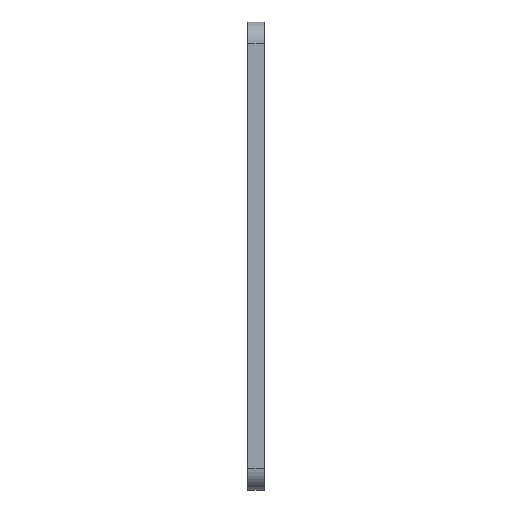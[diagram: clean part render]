
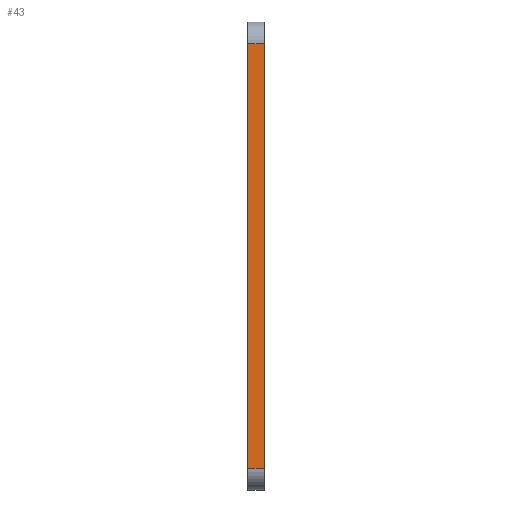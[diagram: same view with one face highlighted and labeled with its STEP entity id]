
A CAD part, left-side view. The second image highlights one B-rep face of the part: STEP entity #43.
In plain terms, the highlighted planar face has unit normal (-1, 0, 0).
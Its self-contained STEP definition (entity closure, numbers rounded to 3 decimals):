
#10 = EDGE_CURVE ( 'NONE', #401, #585, #436, .T. ) ;
#12 = ORIENTED_EDGE ( 'NONE', *, *, #10, .F. ) ;
#18 = ORIENTED_EDGE ( 'NONE', *, *, #250, .F. ) ;
#43 = ADVANCED_FACE ( 'NONE', ( #705 ), #163, .F. ) ;
#80 = EDGE_LOOP ( 'NONE', ( #218, #18, #12, #132 ) ) ;
#113 = DIRECTION ( 'NONE',  ( 0., -1., 0. ) ) ;
#132 = ORIENTED_EDGE ( 'NONE', *, *, #267, .T. ) ;
#163 = PLANE ( 'NONE',  #385 ) ;
#194 = LINE ( 'NONE', #567, #521 ) ;
#215 = LINE ( 'NONE', #735, #642 ) ;
#218 = ORIENTED_EDGE ( 'NONE', *, *, #305, .T. ) ;
#219 = CARTESIAN_POINT ( 'NONE',  ( -23.539, 2., 40.563 ) ) ;
#250 = EDGE_CURVE ( 'NONE', #585, #604, #215, .T. ) ;
#257 = CARTESIAN_POINT ( 'NONE',  ( -23.539, 2., 40.563 ) ) ;
#267 = EDGE_CURVE ( 'NONE', #401, #706, #194, .T. ) ;
#283 = DIRECTION ( 'NONE',  ( 0., 0., 1. ) ) ;
#291 = VECTOR ( 'NONE', #440, 1000. ) ;
#294 = CARTESIAN_POINT ( 'NONE',  ( -23.539, 2., -10.237 ) ) ;
#305 = EDGE_CURVE ( 'NONE', #706, #604, #606, .T. ) ;
#333 = DIRECTION ( 'NONE',  ( 1., 0., 0. ) ) ;
#385 = AXIS2_PLACEMENT_3D ( 'NONE', #672, #333, #734 ) ;
#401 = VERTEX_POINT ( 'NONE', #294 ) ;
#436 = LINE ( 'NONE', #219, #291 ) ;
#440 = DIRECTION ( 'NONE',  ( 0., 0., 1. ) ) ;
#461 = VECTOR ( 'NONE', #283, 1000. ) ;
#521 = VECTOR ( 'NONE', #113, 1000. ) ;
#567 = CARTESIAN_POINT ( 'NONE',  ( -23.539, 2., -10.237 ) ) ;
#570 = CARTESIAN_POINT ( 'NONE',  ( -23.539, 0., 40.563 ) ) ;
#585 = VERTEX_POINT ( 'NONE', #257 ) ;
#603 = CARTESIAN_POINT ( 'NONE',  ( -23.539, 0., -10.237 ) ) ;
#604 = VERTEX_POINT ( 'NONE', #709 ) ;
#606 = LINE ( 'NONE', #570, #461 ) ;
#642 = VECTOR ( 'NONE', #733, 1000. ) ;
#672 = CARTESIAN_POINT ( 'NONE',  ( -23.539, 2., 40.563 ) ) ;
#705 = FACE_OUTER_BOUND ( 'NONE', #80, .T. ) ;
#706 = VERTEX_POINT ( 'NONE', #603 ) ;
#709 = CARTESIAN_POINT ( 'NONE',  ( -23.539, 0., 40.563 ) ) ;
#733 = DIRECTION ( 'NONE',  ( 0., -1., 0. ) ) ;
#734 = DIRECTION ( 'NONE',  ( 0., 0., -1. ) ) ;
#735 = CARTESIAN_POINT ( 'NONE',  ( -23.539, 2., 40.563 ) ) ;
